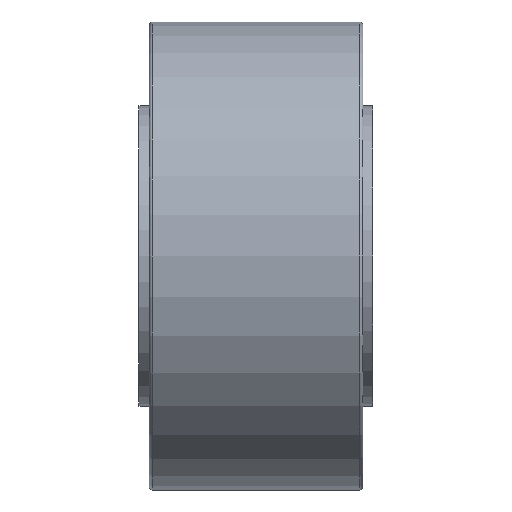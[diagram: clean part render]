
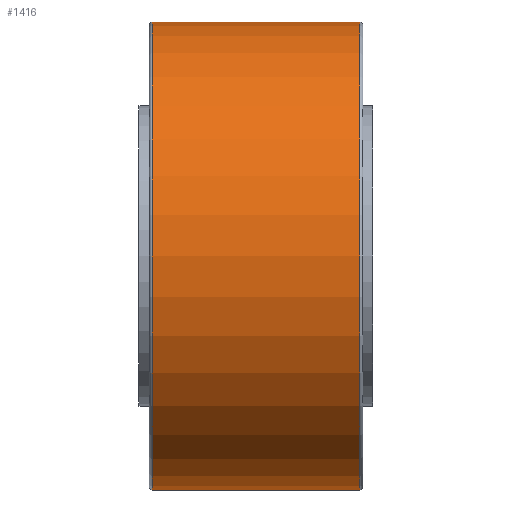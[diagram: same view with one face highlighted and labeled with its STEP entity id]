
A CAD part, front view. The second image highlights one B-rep face of the part: STEP entity #1416.
In plain terms, the highlighted cylindrical face has radius 70 mm (diameter 140 mm), a partial arc.
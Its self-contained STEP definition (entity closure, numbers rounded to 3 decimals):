
#44 = LINE ( 'NONE', #62, #61 ) ;
#60 = DIRECTION ( 'NONE',  ( -1., 0., 0. ) ) ;
#61 = VECTOR ( 'NONE', #60, 1000. ) ;
#62 = CARTESIAN_POINT ( 'NONE',  ( -41.122, 0., 70. ) ) ;
#136 = CARTESIAN_POINT ( 'NONE',  ( -41.122, 0., -70. ) ) ;
#137 = LINE ( 'NONE', #136, #143 ) ;
#142 = DIRECTION ( 'NONE',  ( -1., 0., 0. ) ) ;
#143 = VECTOR ( 'NONE', #142, 1000. ) ;
#255 = CARTESIAN_POINT ( 'NONE',  ( -41.122, 0., 0. ) ) ;
#256 = FACE_OUTER_BOUND ( 'NONE', #1379, .T. ) ;
#257 = AXIS2_PLACEMENT_3D ( 'NONE', #255, #268, #276 ) ;
#268 = DIRECTION ( 'NONE',  ( -1., 0., 0. ) ) ;
#276 = DIRECTION ( 'NONE',  ( 0., 0., 1. ) ) ;
#283 = CYLINDRICAL_SURFACE ( 'NONE', #257, 70. ) ;
#314 = DIRECTION ( 'NONE',  ( 0., 0., 1. ) ) ;
#318 = DIRECTION ( 'NONE',  ( 0., 0., -1. ) ) ;
#319 = DIRECTION ( 'NONE',  ( 1., 0., 0. ) ) ;
#320 = CARTESIAN_POINT ( 'NONE',  ( -31., 0., 0. ) ) ;
#321 = DIRECTION ( 'NONE',  ( -1., 0., 0. ) ) ;
#323 = CIRCLE ( 'NONE', #333, 70. ) ;
#324 = CIRCLE ( 'NONE', #328, 70. ) ;
#328 = AXIS2_PLACEMENT_3D ( 'NONE', #332, #321, #314 ) ;
#332 = CARTESIAN_POINT ( 'NONE',  ( 31., 0., 0. ) ) ;
#333 = AXIS2_PLACEMENT_3D ( 'NONE', #320, #319, #318 ) ;
#783 = CARTESIAN_POINT ( 'NONE',  ( -31., 0., -70. ) ) ;
#823 = CARTESIAN_POINT ( 'NONE',  ( 31., 0., 70. ) ) ;
#908 = CARTESIAN_POINT ( 'NONE',  ( 31., 0., -70. ) ) ;
#937 = CARTESIAN_POINT ( 'NONE',  ( -31., 0., 70. ) ) ;
#1295 = EDGE_CURVE ( 'NONE', #1966, #2011, #44, .T. ) ;
#1348 = EDGE_CURVE ( 'NONE', #1996, #1933, #137, .T. ) ;
#1379 = EDGE_LOOP ( 'NONE', ( #1412, #1442, #1431, #1433 ) ) ;
#1412 = ORIENTED_EDGE ( 'NONE', *, *, #1348, .F. ) ;
#1416 = ADVANCED_FACE ( 'NONE', ( #256 ), #283, .T. ) ;
#1431 = ORIENTED_EDGE ( 'NONE', *, *, #1295, .T. ) ;
#1433 = ORIENTED_EDGE ( 'NONE', *, *, #1437, .T. ) ;
#1436 = EDGE_CURVE ( 'NONE', #1996, #1966, #324, .T. ) ;
#1437 = EDGE_CURVE ( 'NONE', #2011, #1933, #323, .T. ) ;
#1442 = ORIENTED_EDGE ( 'NONE', *, *, #1436, .T. ) ;
#1933 = VERTEX_POINT ( 'NONE', #783 ) ;
#1966 = VERTEX_POINT ( 'NONE', #823 ) ;
#1996 = VERTEX_POINT ( 'NONE', #908 ) ;
#2011 = VERTEX_POINT ( 'NONE', #937 ) ;
